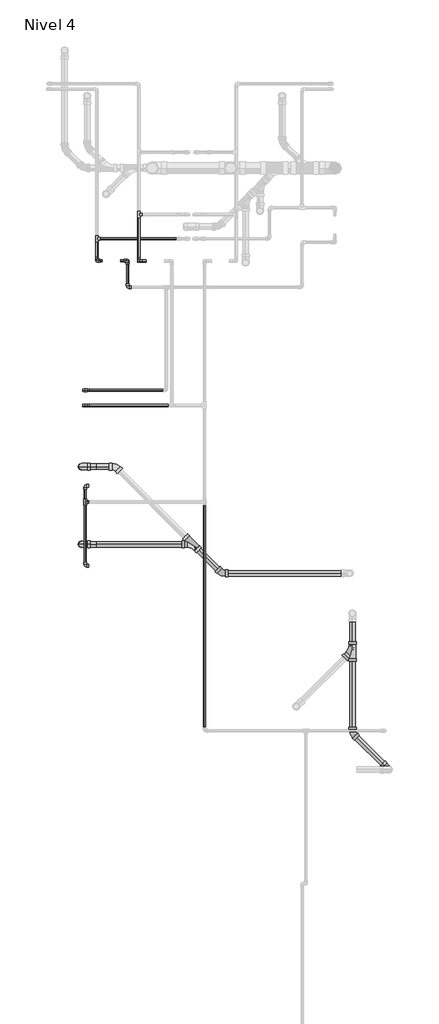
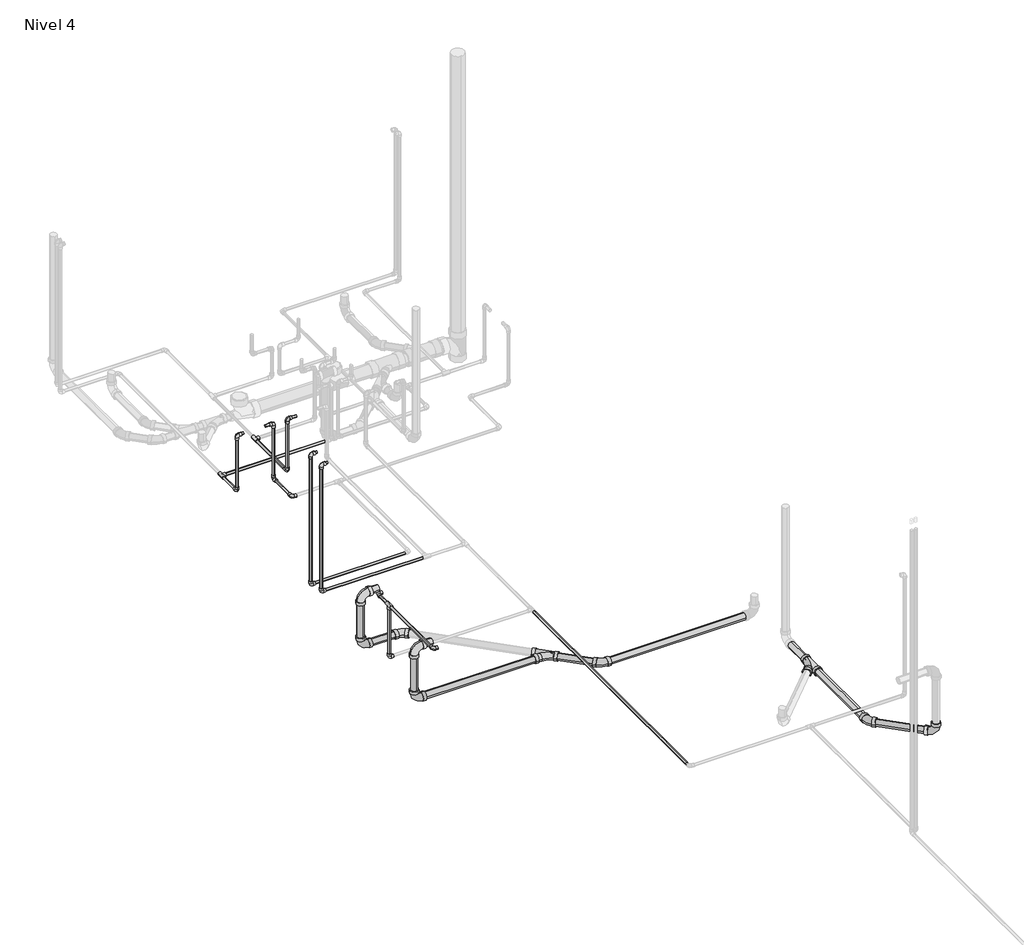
# One storey, part 6 of 9: 31 pipe segments, 27 pipe fittings.
"""IFC4 building model written with IfcOpenShell, lengths in millimetres."""

from ifc_helpers import new_model, si_unit, point, frame, frame_2d, origin, place, context, project, spatial, circle_curve, trimmed, segment, composite_curve, outline, extrude, transform, mapped, element, save
from components import pipe_fitting_ab418b84, pipe_fitting_0163322b, m_codo_pvc_serie_40_9ad74631, m_codo_pvc_serie_40_dwv1_5c0ec739, m_codo_pvc_serie_40_dwv1_6f1a2495

model = new_model("IFC4")

# Units and contexts
model_context = context("Model", 3, world=origin())
ifc_project = project(units=[si_unit("LENGTHUNIT", "METRE", prefix="MILLI")], contexts=[model_context])

# Site, building, storey
site = spatial("IfcSite", under=ifc_project)
building = spatial("IfcBuilding", under=site)
storey = spatial("IfcBuildingStorey", under=building, Name="Nivel 4", Elevation=8100.0)

# Pipe fittings
placement = place(None, origin())
pipe_fitting_shape = pipe_fitting_ab418b84(model_context)
element("IfcPipeFitting", 1, ObjectType="M_Te - PVC - Serie 40 : Estándar", at=placement, inside=storey, context=model_context, shape_type="MappedRepresentation", body=[
    mapped(pipe_fitting_shape, transform((3414.5674476, 13135.047678, 8500.0), x_axis=(0.0, -1.0, 0.0), y_axis=(0.0, 0.0, 1.0), z_axis=(-1.0, 0.0, 0.0))),
])
element("IfcPipeFitting", 2, ObjectType="M_Te - PVC - Serie 40 : Estándar", at=placement, inside=storey, context=model_context, shape_type="MappedRepresentation", body=[
    mapped(pipe_fitting_shape, transform((3940.052369, 15948.3784167, 8050.0), x_axis=(0.0, 1.0, 0.0), y_axis=(-1.0, 0.0, 0.0), z_axis=(0.0, 0.0, 1.0))),
])
element("IfcPipeFitting", 3, ObjectType="M_Te - PVC - Serie 40 : Estándar", at=placement, inside=storey, context=model_context, shape_type="MappedRepresentation", body=[
    mapped(pipe_fitting_shape, transform((3529.5674476, 15711.6215833, 8020.0), x_axis=(0.0, -1.0, 0.0), y_axis=(-1.0, 0.0, 0.0), z_axis=(0.0, 0.0, -1.0))),
])
pipe_fitting_2_shape = pipe_fitting_0163322b(model_context)
element("IfcPipeFitting", 4, ObjectType="M_Sanitario con te de reducción - PVC - Serie 40 - DWV : Estándar", at=placement, inside=storey, context=model_context, shape_type="MappedRepresentation", body=[
    mapped(pipe_fitting_2_shape, transform((6034.2551231, 11685.3518772, 7950.0), x_axis=(0.0, -1.0, 0.0), y_axis=(1.0, 0.0, 0.0), z_axis=(0.0, 0.0, 1.0))),
])
element("IfcPipeFitting", 5, ObjectType="M_Sanitario con te de reducción - PVC - Serie 40 - DWV : Estándar", at=placement, inside=storey, context=model_context, shape_type="MappedRepresentation", body=[
    mapped(pipe_fitting_2_shape, transform((4471.6264357, 12721.1279626, 7950.0), x_axis=(-0.7071067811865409, 0.7071067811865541, 0.0), y_axis=(0.7071067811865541, 0.7071067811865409, 0.0), z_axis=(0.0, 0.0, -1.0))),
])
m_codo_pvc_serie_40_shape = m_codo_pvc_serie_40_9ad74631(model_context)
element("IfcPipeFitting", 6, ObjectType="M_Codo - PVC - Serie 40 : Estándar", at=placement, inside=storey, context=model_context, shape_type="MappedRepresentation", body=[
    mapped(m_codo_pvc_serie_40_shape, transform((3414.5674476, 13135.047678, 8050.0), x_axis=(-1.0, 0.0, 0.0), y_axis=(0.0, 0.0, 1.0), z_axis=(0.0, 1.0, 0.0))),
])
element("IfcPipeFitting", 7, ObjectType="M_Codo - PVC - Serie 40 : Estándar", at=placement, inside=storey, context=model_context, shape_type="MappedRepresentation", body=[
    mapped(m_codo_pvc_serie_40_shape, transform((3414.5674476, 13295.047678, 8500.0), x_axis=(-1.0, 0.0, 0.0), y_axis=(0.0, -1.0, 0.0), z_axis=(0.0, 0.0, 1.0))),
])
element("IfcPipeFitting", 8, ObjectType="M_Codo - PVC - Serie 40 : Estándar", at=placement, inside=storey, context=model_context, shape_type="MappedRepresentation", body=[
    mapped(m_codo_pvc_serie_40_shape, transform((3414.5674476, 12509.5875218, 8500.0), x_axis=(0.0, -1.0, 0.0), y_axis=(1.0, 0.0, 0.0), z_axis=(0.0, 0.0, 1.0))),
])
element("IfcPipeFitting", 9, ObjectType="M_Codo - PVC - Serie 40 : Estándar", at=placement, inside=storey, context=model_context, shape_type="MappedRepresentation", body=[
    mapped(m_codo_pvc_serie_40_shape, transform((3940.052369, 15493.3784167, 8050.0), x_axis=(0.0, -1.0, 0.0), y_axis=(0.0, 0.0, 1.0), z_axis=(-1.0, 0.0, 0.0))),
])
element("IfcPipeFitting", 10, ObjectType="M_Codo - PVC - Serie 40 : Estándar", at=placement, inside=storey, context=model_context, shape_type="MappedRepresentation", body=[
    mapped(m_codo_pvc_serie_40_shape, transform((3940.052369, 15493.3784167, 8500.0), x_axis=(0.0, 0.0, 1.0), y_axis=(1.0, 0.0, 0.0), z_axis=(0.0, 1.0, 0.0))),
])
element("IfcPipeFitting", 11, ObjectType="M_Codo - PVC - Serie 40 : Estándar", at=placement, inside=storey, context=model_context, shape_type="MappedRepresentation", body=[
    mapped(m_codo_pvc_serie_40_shape, transform((3829.5674476, 15236.3878958, 8020.0), x_axis=(0.0, -1.0, 0.0), y_axis=(1.0, 0.0, 0.0), z_axis=(0.0, 0.0, 1.0))),
])
element("IfcPipeFitting", 12, ObjectType="M_Codo - PVC - Serie 40 : Estándar", at=placement, inside=storey, context=model_context, shape_type="MappedRepresentation", body=[
    mapped(m_codo_pvc_serie_40_shape, transform((3829.5674476, 15496.3878958, 8020.0), x_axis=(0.0, 1.0, 0.0), y_axis=(0.0, 0.0, 1.0), z_axis=(1.0, 0.0, 0.0))),
])
element("IfcPipeFitting", 13, ObjectType="M_Codo - PVC - Serie 40 : Estándar", at=placement, inside=storey, context=model_context, shape_type="MappedRepresentation", body=[
    mapped(m_codo_pvc_serie_40_shape, transform((3829.5674476, 15496.3878958, 8500.0), x_axis=(0.0, 0.0, 1.0), y_axis=(-1.0, 0.0, 0.0), z_axis=(0.0, -1.0, 0.0))),
])
element("IfcPipeFitting", 14, ObjectType="M_Codo - PVC - Serie 40 : Estándar", at=placement, inside=storey, context=model_context, shape_type="MappedRepresentation", body=[
    mapped(m_codo_pvc_serie_40_shape, transform((3529.5674476, 15496.3878958, 8500.0), x_axis=(-1.0, 0.0, 0.0), y_axis=(0.0, 0.0, -1.0), z_axis=(0.0, -1.0, 0.0))),
])
element("IfcPipeFitting", 15, ObjectType="M_Codo - PVC - Serie 40 : Estándar", at=placement, inside=storey, context=model_context, shape_type="MappedRepresentation", body=[
    mapped(m_codo_pvc_serie_40_shape, transform((3529.5674476, 15496.3878958, 8020.0), x_axis=(0.0, 0.0, -1.0), y_axis=(0.0, 1.0, 0.0), z_axis=(1.0, 0.0, 0.0))),
])
element("IfcPipeFitting", 16, ObjectType="M_Codo - PVC - Serie 40 : Estándar", at=placement, inside=storey, context=model_context, shape_type="MappedRepresentation", body=[
    mapped(m_codo_pvc_serie_40_shape, transform((3401.6438209, 14229.2433012, 9150.0), x_axis=(-1.0, 0.0, 0.0), y_axis=(0.0, 0.0, -1.0), z_axis=(0.0, -1.0, 0.0))),
])
element("IfcPipeFitting", 17, ObjectType="M_Codo - PVC - Serie 40 : Estándar", at=placement, inside=storey, context=model_context, shape_type="MappedRepresentation", body=[
    mapped(m_codo_pvc_serie_40_shape, transform((3401.6438209, 14079.2433012, 9150.0), x_axis=(-1.0, 0.0, 0.0), y_axis=(0.0, 0.0, -1.0), z_axis=(0.0, -1.0, 0.0))),
])
element("IfcPipeFitting", 18, ObjectType="M_Codo - PVC - Serie 40 : Estándar", at=placement, inside=storey, context=model_context, shape_type="MappedRepresentation", body=[
    mapped(m_codo_pvc_serie_40_shape, transform((3401.6438209, 14229.2433012, 8020.0), x_axis=(0.0, 0.0, -1.0), y_axis=(1.0, 0.0, 0.0), z_axis=(0.0, -1.0, 0.0))),
])
element("IfcPipeFitting", 19, ObjectType="M_Codo - PVC - Serie 40 : Estándar", at=placement, inside=storey, context=model_context, shape_type="MappedRepresentation", body=[
    mapped(m_codo_pvc_serie_40_shape, transform((3401.6438209, 14079.2433012, 8050.0), x_axis=(0.0, 0.0, -1.0), y_axis=(1.0, 0.0, 0.0), z_axis=(0.0, -1.0, 0.0))),
])
m_codo_pvc_serie_40_dwv1_shape = m_codo_pvc_serie_40_dwv1_5c0ec739(model_context)
element("IfcPipeFitting", 20, ObjectType="M_Codo - PVC - Serie 40 - DWV1 : Estándar 2", at=placement, inside=storey, context=model_context, shape_type="MappedRepresentation", body=[
    mapped(m_codo_pvc_serie_40_dwv1_shape, transform((6387.7966771, 10516.9594307, 7950.0), x_axis=(0.0, 0.0, -1.0), y_axis=(-0.7071067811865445, 0.7071067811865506, 0.0), z_axis=(0.7071067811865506, 0.7071067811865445, 0.0))),
])
element("IfcPipeFitting", 21, ObjectType="M_Codo - PVC - Serie 40 - DWV1 : Estándar 2", at=placement, inside=storey, context=model_context, shape_type="MappedRepresentation", body=[
    mapped(m_codo_pvc_serie_40_dwv1_shape, transform((3380.4956461, 13481.1279626, 8400.0), x_axis=(-1.0, 0.0, 0.0), y_axis=(0.0, 0.0, -1.0), z_axis=(0.0, -1.0, 0.0))),
])
element("IfcPipeFitting", 22, ObjectType="M_Codo - PVC - Serie 40 - DWV1 : Estándar 2", at=placement, inside=storey, context=model_context, shape_type="MappedRepresentation", body=[
    mapped(m_codo_pvc_serie_40_dwv1_shape, transform((3380.4956461, 13481.1279626, 7950.0), x_axis=(0.0, 0.0, -1.0), y_axis=(1.0, 0.0, 0.0), z_axis=(0.0, -1.0, 0.0))),
])
element("IfcPipeFitting", 23, ObjectType="M_Codo - PVC - Serie 40 - DWV1 : Estándar 2", at=placement, inside=storey, context=model_context, shape_type="MappedRepresentation", body=[
    mapped(m_codo_pvc_serie_40_dwv1_shape, transform((3380.4956461, 12721.1279626, 8400.0), x_axis=(-1.0, 0.0, 0.0), y_axis=(0.0, 0.0, -1.0), z_axis=(0.0, -1.0, 0.0))),
])
element("IfcPipeFitting", 24, ObjectType="M_Codo - PVC - Serie 40 - DWV1 : Estándar 2", at=placement, inside=storey, context=model_context, shape_type="MappedRepresentation", body=[
    mapped(m_codo_pvc_serie_40_dwv1_shape, transform((3380.4956461, 12721.1279626, 7950.0), x_axis=(0.0, 0.0, -1.0), y_axis=(1.0, 0.0, 0.0), z_axis=(0.0, -1.0, 0.0))),
])
m_codo_pvc_serie_40_dwv1_2_shape = m_codo_pvc_serie_40_dwv1_6f1a2495(model_context)
element("IfcPipeFitting", 25, ObjectType="M_Codo - PVC - Serie 40 - DWV1 : Estándar 2", at=placement, inside=storey, context=model_context, shape_type="MappedRepresentation", body=[
    mapped(m_codo_pvc_serie_40_dwv1_2_shape, transform((6034.2551231, 10870.5009847, 7950.0), x_axis=(0.0, -1.0, 0.0), y_axis=(1.0, 0.0, 0.0), z_axis=(0.0, 0.0, 1.0))),
])
element("IfcPipeFitting", 26, ObjectType="M_Codo - PVC - Serie 40 - DWV1 : Estándar 2", at=placement, inside=storey, context=model_context, shape_type="MappedRepresentation", body=[
    mapped(m_codo_pvc_serie_40_dwv1_2_shape, transform((3711.6264357, 13481.1279626, 7950.0), x_axis=(-0.7071067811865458, 0.7071067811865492, 0.0), y_axis=(-0.7071067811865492, -0.7071067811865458, 0.0), z_axis=(0.0, 0.0, 1.0))),
])
element("IfcPipeFitting", 27, ObjectType="M_Codo - PVC - Serie 40 - DWV1 : Estándar 2", at=placement, inside=storey, context=model_context, shape_type="MappedRepresentation", body=[
    mapped(m_codo_pvc_serie_40_dwv1_2_shape, transform((4755.8120302, 12436.942368, 7950.0), x_axis=(0.7071067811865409, -0.7071067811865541, 0.0), y_axis=(0.7071067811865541, 0.7071067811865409, 0.0), z_axis=(0.0, 0.0, 1.0))),
])

# Pipe segments
element("IfcPipeSegment", 28, ObjectType="Tuberia PVC Agua Fria", at=placement, inside=storey, context=model_context, shape_type="SweptSolid", body=[
    extrude(outline(composite_curve([segment(trimmed(circle_curve(frame_2d((8050.0, 4584.5674476)), 10.31875), [point((8050.0, 4594.8861976))], [point((8060.31875, 4584.5674476))], False, "CARTESIAN"), True, "CONTINUOUS"), segment(trimmed(circle_curve(frame_2d((8050.0, 4584.5674476)), 10.31875), [point((8060.31875, 4584.5674476))], [point((8050.0, 4574.2486976))], False, "CARTESIAN"), True, "CONTINUOUS"), segment(trimmed(circle_curve(frame_2d((8050.0, 4584.5674476)), 10.31875), [point((8050.0, 4574.2486976))], [point((8039.68125, 4584.5674476))], False, "CARTESIAN"), True, "CONTINUOUS"), segment(trimmed(circle_curve(frame_2d((8050.0, 4584.5674476)), 10.31875), [point((8039.68125, 4584.5674476))], [point((8050.0, 4594.8861976))], False, "CARTESIAN"), True, "CONTINUOUS")], self_intersect=False)), frame((0.0, 10930.4191394, 0.0), z_axis=(0.0, 1.0, 0.0), x_axis=(0.0, 0.0, 1.0)), (0.0, 0.0, 1.0), 2174.1683824),
])
element("IfcPipeSegment", 29, ObjectType="Tuberia PVC Agua Fria", at=placement, inside=storey, context=model_context, shape_type="SweptSolid", body=[
    extrude(outline(composite_curve([segment(trimmed(circle_curve(frame_2d((8500.0, 3414.5674476)), 10.31875), [point((8500.0, 3424.8861976))], [point((8510.31875, 3414.5674476))], False, "CARTESIAN"), True, "CONTINUOUS"), segment(trimmed(circle_curve(frame_2d((8500.0, 3414.5674476)), 10.31875), [point((8510.31875, 3414.5674476))], [point((8500.0, 3404.2486976))], False, "CARTESIAN"), True, "CONTINUOUS"), segment(trimmed(circle_curve(frame_2d((8500.0, 3414.5674476)), 10.31875), [point((8500.0, 3404.2486976))], [point((8489.68125, 3414.5674476))], False, "CARTESIAN"), True, "CONTINUOUS"), segment(trimmed(circle_curve(frame_2d((8500.0, 3414.5674476)), 10.31875), [point((8489.68125, 3414.5674476))], [point((8500.0, 3424.8861976))], False, "CARTESIAN"), True, "CONTINUOUS")], self_intersect=False)), frame((0.0, 13165.5078343, 0.0), z_axis=(0.0, 1.0, 0.0), x_axis=(0.0, 0.0, 1.0)), (0.0, 0.0, 1.0), 96.1388438),
])
element("IfcPipeSegment", 30, ObjectType="Tuberia PVC Agua Fria", at=placement, inside=storey, context=model_context, shape_type="SweptSolid", body=[
    extrude(outline(composite_curve([segment(trimmed(circle_curve(frame_2d((3414.5674476, 13135.047678)), 10.31875), [point((3404.2486976, 13135.047678))], [point((3414.5674476, 13145.366428))], False, "CARTESIAN"), True, "CONTINUOUS"), segment(trimmed(circle_curve(frame_2d((3414.5674476, 13135.047678)), 10.31875), [point((3414.5674476, 13145.366428))], [point((3424.8861976, 13135.047678))], False, "CARTESIAN"), True, "CONTINUOUS"), segment(trimmed(circle_curve(frame_2d((3414.5674476, 13135.047678)), 10.31875), [point((3424.8861976, 13135.047678))], [point((3414.5674476, 13124.728928))], False, "CARTESIAN"), True, "CONTINUOUS"), segment(trimmed(circle_curve(frame_2d((3414.5674476, 13135.047678)), 10.31875), [point((3414.5674476, 13124.728928))], [point((3404.2486976, 13135.047678))], False, "CARTESIAN"), True, "CONTINUOUS")], self_intersect=False)), frame((0.0, 0.0, 8083.401), z_axis=(0.0, 0.0, 1.0), x_axis=(1.0, 0.0, 0.0)), (0.0, 0.0, 1.0), 386.1388438),
])
element("IfcPipeSegment", 31, ObjectType="Tuberia PVC Agua Fria", at=placement, inside=storey, context=model_context, shape_type="SweptSolid", body=[
    extrude(outline(composite_curve([segment(trimmed(circle_curve(frame_2d((8500.0, 3414.5674476)), 10.31875), [point((8500.0, 3404.2486976))], [point((8489.68125, 3414.5674476))], False, "CARTESIAN"), True, "CONTINUOUS"), segment(trimmed(circle_curve(frame_2d((8500.0, 3414.5674476)), 10.31875), [point((8489.68125, 3414.5674476))], [point((8500.0, 3424.8861976))], False, "CARTESIAN"), True, "CONTINUOUS"), segment(trimmed(circle_curve(frame_2d((8500.0, 3414.5674476)), 10.31875), [point((8500.0, 3424.8861976))], [point((8510.31875, 3414.5674476))], False, "CARTESIAN"), True, "CONTINUOUS"), segment(trimmed(circle_curve(frame_2d((8500.0, 3414.5674476)), 10.31875), [point((8510.31875, 3414.5674476))], [point((8500.0, 3404.2486976))], False, "CARTESIAN"), True, "CONTINUOUS")], self_intersect=False)), frame((0.0, 12542.9885218, 0.0), z_axis=(0.0, 1.0, 0.0), x_axis=(0.0, 0.0, 1.0)), (0.0, 0.0, 1.0), 561.599),
])
element("IfcPipeSegment", 32, ObjectType="Tuberia PVC Agua Fria", at=placement, inside=storey, context=model_context, shape_type="SweptSolid", body=[
    extrude(outline(composite_curve([segment(trimmed(circle_curve(frame_2d((8050.0, 3940.052369)), 10.31875), [point((8050.0, 3929.733619))], [point((8039.68125, 3940.052369))], False, "CARTESIAN"), True, "CONTINUOUS"), segment(trimmed(circle_curve(frame_2d((8050.0, 3940.052369)), 10.31875), [point((8039.68125, 3940.052369))], [point((8050.0, 3950.371119))], False, "CARTESIAN"), True, "CONTINUOUS"), segment(trimmed(circle_curve(frame_2d((8050.0, 3940.052369)), 10.31875), [point((8050.0, 3950.371119))], [point((8060.31875, 3940.052369))], False, "CARTESIAN"), True, "CONTINUOUS"), segment(trimmed(circle_curve(frame_2d((8050.0, 3940.052369)), 10.31875), [point((8060.31875, 3940.052369))], [point((8050.0, 3929.733619))], False, "CARTESIAN"), True, "CONTINUOUS")], self_intersect=False)), frame((0.0, 15526.7794167, 0.0), z_axis=(0.0, 1.0, 0.0), x_axis=(0.0, 0.0, 1.0)), (0.0, 0.0, 1.0), 391.1388438),
])
element("IfcPipeSegment", 33, ObjectType="Tuberia PVC Agua Fria", at=placement, inside=storey, context=model_context, shape_type="SweptSolid", body=[
    extrude(outline(composite_curve([segment(trimmed(circle_curve(frame_2d((3940.052369, 15493.3784167)), 10.31875), [point((3929.733619, 15493.3784167))], [point((3940.052369, 15503.6971667))], False, "CARTESIAN"), True, "CONTINUOUS"), segment(trimmed(circle_curve(frame_2d((3940.052369, 15493.3784167)), 10.31875), [point((3940.052369, 15503.6971667))], [point((3950.371119, 15493.3784167))], False, "CARTESIAN"), True, "CONTINUOUS"), segment(trimmed(circle_curve(frame_2d((3940.052369, 15493.3784167)), 10.31875), [point((3950.371119, 15493.3784167))], [point((3940.052369, 15483.0596667))], False, "CARTESIAN"), True, "CONTINUOUS"), segment(trimmed(circle_curve(frame_2d((3940.052369, 15493.3784167)), 10.31875), [point((3940.052369, 15483.0596667))], [point((3929.733619, 15493.3784167))], False, "CARTESIAN"), True, "CONTINUOUS")], self_intersect=False)), frame((0.0, 0.0, 8083.401), z_axis=(0.0, 0.0, 1.0), x_axis=(1.0, 0.0, 0.0)), (0.0, 0.0, 1.0), 383.198),
])
element("IfcPipeSegment", 34, ObjectType="Tuberia PVC Agua Fria", at=placement, inside=storey, context=model_context, shape_type="SweptSolid", body=[
    extrude(outline(composite_curve([segment(trimmed(circle_curve(frame_2d((15493.3784167, 8500.0)), 10.31875), [point((15483.0596667, 8500.0))], [point((15493.3784167, 8510.31875))], False, "CARTESIAN"), True, "CONTINUOUS"), segment(trimmed(circle_curve(frame_2d((15493.3784167, 8500.0)), 10.31875), [point((15493.3784167, 8510.31875))], [point((15503.6971667, 8500.0))], False, "CARTESIAN"), True, "CONTINUOUS"), segment(trimmed(circle_curve(frame_2d((15493.3784167, 8500.0)), 10.31875), [point((15503.6971667, 8500.0))], [point((15493.3784167, 8489.68125))], False, "CARTESIAN"), True, "CONTINUOUS"), segment(trimmed(circle_curve(frame_2d((15493.3784167, 8500.0)), 10.31875), [point((15493.3784167, 8489.68125))], [point((15483.0596667, 8500.0))], False, "CARTESIAN"), True, "CONTINUOUS")], self_intersect=False)), frame((3973.453369, 0.0, 0.0), z_axis=(1.0, 0.0, 0.0), x_axis=(0.0, 1.0, 0.0)), (0.0, 0.0, 1.0), 39.3897748),
])
element("IfcPipeSegment", 35, ObjectType="Tuberia PVC Agua Fria", at=placement, inside=storey, context=model_context, shape_type="SweptSolid", body=[
    extrude(outline(composite_curve([segment(trimmed(circle_curve(frame_2d((14079.2433012, 9150.0)), 10.31875), [point((14089.5620512, 9150.0))], [point((14079.2433012, 9139.68125))], False, "CARTESIAN"), True, "CONTINUOUS"), segment(trimmed(circle_curve(frame_2d((14079.2433012, 9150.0)), 10.31875), [point((14079.2433012, 9139.68125))], [point((14068.9245512, 9150.0))], False, "CARTESIAN"), True, "CONTINUOUS"), segment(trimmed(circle_curve(frame_2d((14079.2433012, 9150.0)), 10.31875), [point((14068.9245512, 9150.0))], [point((14079.2433012, 9160.31875))], False, "CARTESIAN"), True, "CONTINUOUS"), segment(trimmed(circle_curve(frame_2d((14079.2433012, 9150.0)), 10.31875), [point((14079.2433012, 9160.31875))], [point((14089.5620512, 9150.0))], False, "CARTESIAN"), True, "CONTINUOUS")], self_intersect=False)), frame((3435.0448209, 0.0, 0.0), z_axis=(1.0, 0.0, 0.0), x_axis=(0.0, 1.0, 0.0)), (0.0, 0.0, 1.0), 16.599),
])
element("IfcPipeSegment", 36, ObjectType="Tuberia PVC Agua Fria", at=placement, inside=storey, context=model_context, shape_type="SweptSolid", body=[
    extrude(outline(composite_curve([segment(trimmed(circle_curve(frame_2d((14079.2433012, 8050.0)), 10.31875), [point((14089.5620512, 8050.0))], [point((14079.2433012, 8039.68125))], False, "CARTESIAN"), True, "CONTINUOUS"), segment(trimmed(circle_curve(frame_2d((14079.2433012, 8050.0)), 10.31875), [point((14079.2433012, 8039.68125))], [point((14068.9245512, 8050.0))], False, "CARTESIAN"), True, "CONTINUOUS"), segment(trimmed(circle_curve(frame_2d((14079.2433012, 8050.0)), 10.31875), [point((14068.9245512, 8050.0))], [point((14079.2433012, 8060.31875))], False, "CARTESIAN"), True, "CONTINUOUS"), segment(trimmed(circle_curve(frame_2d((14079.2433012, 8050.0)), 10.31875), [point((14079.2433012, 8060.31875))], [point((14089.5620512, 8050.0))], False, "CARTESIAN"), True, "CONTINUOUS")], self_intersect=False)), frame((3435.0448209, 0.0, 0.0), z_axis=(1.0, 0.0, 0.0), x_axis=(0.0, 1.0, 0.0)), (0.0, 0.0, 1.0), 798.1289414),
])
element("IfcPipeSegment", 37, ObjectType="Tuberia PVC Agua Fria", at=placement, inside=storey, context=model_context, shape_type="SweptSolid", body=[
    extrude(outline(composite_curve([segment(trimmed(circle_curve(frame_2d((3401.6438209, 14079.2433012)), 10.31875), [point((3411.9625709, 14079.2433012))], [point((3401.6438209, 14068.9245512))], False, "CARTESIAN"), True, "CONTINUOUS"), segment(trimmed(circle_curve(frame_2d((3401.6438209, 14079.2433012)), 10.31875), [point((3401.6438209, 14068.9245512))], [point((3391.3250709, 14079.2433012))], False, "CARTESIAN"), True, "CONTINUOUS"), segment(trimmed(circle_curve(frame_2d((3401.6438209, 14079.2433012)), 10.31875), [point((3391.3250709, 14079.2433012))], [point((3401.6438209, 14089.5620512))], False, "CARTESIAN"), True, "CONTINUOUS"), segment(trimmed(circle_curve(frame_2d((3401.6438209, 14079.2433012)), 10.31875), [point((3401.6438209, 14089.5620512))], [point((3411.9625709, 14079.2433012))], False, "CARTESIAN"), True, "CONTINUOUS")], self_intersect=False)), frame((0.0, 0.0, 8083.401), z_axis=(0.0, 0.0, 1.0), x_axis=(1.0, 0.0, 0.0)), (0.0, 0.0, 1.0), 1033.198),
])
element("IfcPipeSegment", 38, ObjectType="Tuberia PVC Agua Caliente", at=placement, inside=storey, context=model_context, shape_type="SweptSolid", body=[
    extrude(outline(composite_curve([segment(trimmed(circle_curve(frame_2d((8020.0, 3829.5674476)), 10.31875), [point((8020.0, 3839.8861976))], [point((8030.31875, 3829.5674476))], False, "CARTESIAN"), True, "CONTINUOUS"), segment(trimmed(circle_curve(frame_2d((8020.0, 3829.5674476)), 10.31875), [point((8030.31875, 3829.5674476))], [point((8020.0, 3819.2486976))], False, "CARTESIAN"), True, "CONTINUOUS"), segment(trimmed(circle_curve(frame_2d((8020.0, 3829.5674476)), 10.31875), [point((8020.0, 3819.2486976))], [point((8009.68125, 3829.5674476))], False, "CARTESIAN"), True, "CONTINUOUS"), segment(trimmed(circle_curve(frame_2d((8020.0, 3829.5674476)), 10.31875), [point((8009.68125, 3829.5674476))], [point((8020.0, 3839.8861976))], False, "CARTESIAN"), True, "CONTINUOUS")], self_intersect=False)), frame((0.0, 15269.7888958, 0.0), z_axis=(0.0, 1.0, 0.0), x_axis=(0.0, 0.0, 1.0)), (0.0, 0.0, 1.0), 193.198),
])
element("IfcPipeSegment", 39, ObjectType="Tuberia PVC Agua Caliente", at=placement, inside=storey, context=model_context, shape_type="SweptSolid", body=[
    extrude(outline(composite_curve([segment(trimmed(circle_curve(frame_2d((15496.3878958, 8500.0)), 10.31875), [point((15506.7066458, 8500.0))], [point((15496.3878958, 8489.68125))], False, "CARTESIAN"), True, "CONTINUOUS"), segment(trimmed(circle_curve(frame_2d((15496.3878958, 8500.0)), 10.31875), [point((15496.3878958, 8489.68125))], [point((15486.0691458, 8500.0))], False, "CARTESIAN"), True, "CONTINUOUS"), segment(trimmed(circle_curve(frame_2d((15496.3878958, 8500.0)), 10.31875), [point((15486.0691458, 8500.0))], [point((15496.3878958, 8510.31875))], False, "CARTESIAN"), True, "CONTINUOUS"), segment(trimmed(circle_curve(frame_2d((15496.3878958, 8500.0)), 10.31875), [point((15496.3878958, 8510.31875))], [point((15506.7066458, 8500.0))], False, "CARTESIAN"), True, "CONTINUOUS")], self_intersect=False)), frame((3562.9684476, 0.0, 0.0), z_axis=(1.0, 0.0, 0.0), x_axis=(0.0, 1.0, 0.0)), (0.0, 0.0, 1.0), 19.5772433),
])
element("IfcPipeSegment", 40, ObjectType="Tuberia PVC Agua Caliente", at=placement, inside=storey, context=model_context, shape_type="SweptSolid", body=[
    extrude(outline(composite_curve([segment(trimmed(circle_curve(frame_2d((3829.5674476, 15496.3878958)), 10.31875), [point((3819.2486976, 15496.3878958))], [point((3829.5674476, 15506.7066458))], False, "CARTESIAN"), True, "CONTINUOUS"), segment(trimmed(circle_curve(frame_2d((3829.5674476, 15496.3878958)), 10.31875), [point((3829.5674476, 15506.7066458))], [point((3839.8861976, 15496.3878958))], False, "CARTESIAN"), True, "CONTINUOUS"), segment(trimmed(circle_curve(frame_2d((3829.5674476, 15496.3878958)), 10.31875), [point((3839.8861976, 15496.3878958))], [point((3829.5674476, 15486.0691458))], False, "CARTESIAN"), True, "CONTINUOUS"), segment(trimmed(circle_curve(frame_2d((3829.5674476, 15496.3878958)), 10.31875), [point((3829.5674476, 15486.0691458))], [point((3819.2486976, 15496.3878958))], False, "CARTESIAN"), True, "CONTINUOUS")], self_intersect=False)), frame((0.0, 0.0, 8053.401), z_axis=(0.0, 0.0, 1.0), x_axis=(1.0, 0.0, 0.0)), (0.0, 0.0, 1.0), 413.198),
])
element("IfcPipeSegment", 41, ObjectType="Tuberia PVC Agua Caliente", at=placement, inside=storey, context=model_context, shape_type="SweptSolid", body=[
    extrude(outline(composite_curve([segment(trimmed(circle_curve(frame_2d((3529.5674476, 15496.3878958)), 10.31875), [point((3539.8861976, 15496.3878958))], [point((3529.5674476, 15486.0691458))], False, "CARTESIAN"), True, "CONTINUOUS"), segment(trimmed(circle_curve(frame_2d((3529.5674476, 15496.3878958)), 10.31875), [point((3529.5674476, 15486.0691458))], [point((3519.2486976, 15496.3878958))], False, "CARTESIAN"), True, "CONTINUOUS"), segment(trimmed(circle_curve(frame_2d((3529.5674476, 15496.3878958)), 10.31875), [point((3519.2486976, 15496.3878958))], [point((3529.5674476, 15506.7066458))], False, "CARTESIAN"), True, "CONTINUOUS"), segment(trimmed(circle_curve(frame_2d((3529.5674476, 15496.3878958)), 10.31875), [point((3529.5674476, 15506.7066458))], [point((3539.8861976, 15496.3878958))], False, "CARTESIAN"), True, "CONTINUOUS")], self_intersect=False)), frame((0.0, 0.0, 8053.401), z_axis=(0.0, 0.0, 1.0), x_axis=(1.0, 0.0, 0.0)), (0.0, 0.0, 1.0), 413.198),
])
element("IfcPipeSegment", 42, ObjectType="Tuberia PVC Agua Caliente", at=placement, inside=storey, context=model_context, shape_type="SweptSolid", body=[
    extrude(outline(composite_curve([segment(trimmed(circle_curve(frame_2d((15711.6215833, 8020.0)), 10.31875), [point((15721.9403333, 8020.0))], [point((15711.6215833, 8009.68125))], False, "CARTESIAN"), True, "CONTINUOUS"), segment(trimmed(circle_curve(frame_2d((15711.6215833, 8020.0)), 10.31875), [point((15711.6215833, 8009.68125))], [point((15701.3028333, 8020.0))], False, "CARTESIAN"), True, "CONTINUOUS"), segment(trimmed(circle_curve(frame_2d((15711.6215833, 8020.0)), 10.31875), [point((15701.3028333, 8020.0))], [point((15711.6215833, 8030.31875))], False, "CARTESIAN"), True, "CONTINUOUS"), segment(trimmed(circle_curve(frame_2d((15711.6215833, 8020.0)), 10.31875), [point((15711.6215833, 8030.31875))], [point((15721.9403333, 8020.0))], False, "CARTESIAN"), True, "CONTINUOUS")], self_intersect=False)), frame((3560.0276039, 0.0, 0.0), z_axis=(1.0, 0.0, 0.0), x_axis=(0.0, 1.0, 0.0)), (0.0, 0.0, 1.0), 835.3737652),
])
element("IfcPipeSegment", 43, ObjectType="Tuberia PVC Agua Caliente", at=placement, inside=storey, context=model_context, shape_type="SweptSolid", body=[
    extrude(outline(composite_curve([segment(trimmed(circle_curve(frame_2d((8020.0, 3529.5674476)), 10.31875), [point((8020.0, 3539.8861976))], [point((8030.31875, 3529.5674476))], False, "CARTESIAN"), True, "CONTINUOUS"), segment(trimmed(circle_curve(frame_2d((8020.0, 3529.5674476)), 10.31875), [point((8030.31875, 3529.5674476))], [point((8020.0, 3519.2486976))], False, "CARTESIAN"), True, "CONTINUOUS"), segment(trimmed(circle_curve(frame_2d((8020.0, 3529.5674476)), 10.31875), [point((8020.0, 3519.2486976))], [point((8009.68125, 3529.5674476))], False, "CARTESIAN"), True, "CONTINUOUS"), segment(trimmed(circle_curve(frame_2d((8020.0, 3529.5674476)), 10.31875), [point((8009.68125, 3529.5674476))], [point((8020.0, 3539.8861976))], False, "CARTESIAN"), True, "CONTINUOUS")], self_intersect=False)), frame((0.0, 15529.7888958, 0.0), z_axis=(0.0, 1.0, 0.0), x_axis=(0.0, 0.0, 1.0)), (0.0, 0.0, 1.0), 151.3725313),
])
element("IfcPipeSegment", 44, ObjectType="Tuberia PVC Agua Caliente", at=placement, inside=storey, context=model_context, shape_type="SweptSolid", body=[
    extrude(outline(composite_curve([segment(trimmed(circle_curve(frame_2d((15496.3878958, 8500.0)), 10.31875), [point((15506.7066458, 8500.0))], [point((15496.3878958, 8489.68125))], False, "CARTESIAN"), True, "CONTINUOUS"), segment(trimmed(circle_curve(frame_2d((15496.3878958, 8500.0)), 10.31875), [point((15496.3878958, 8489.68125))], [point((15486.0691458, 8500.0))], False, "CARTESIAN"), True, "CONTINUOUS"), segment(trimmed(circle_curve(frame_2d((15496.3878958, 8500.0)), 10.31875), [point((15486.0691458, 8500.0))], [point((15496.3878958, 8510.31875))], False, "CARTESIAN"), True, "CONTINUOUS"), segment(trimmed(circle_curve(frame_2d((15496.3878958, 8500.0)), 10.31875), [point((15496.3878958, 8510.31875))], [point((15506.7066458, 8500.0))], False, "CARTESIAN"), True, "CONTINUOUS")], self_intersect=False)), frame((3760.5456909, 0.0, 0.0), z_axis=(1.0, 0.0, 0.0), x_axis=(0.0, 1.0, 0.0)), (0.0, 0.0, 1.0), 35.6207567),
])
element("IfcPipeSegment", 45, ObjectType="Tuberia PVC Agua Caliente", at=placement, inside=storey, context=model_context, shape_type="SweptSolid", body=[
    extrude(outline(composite_curve([segment(trimmed(circle_curve(frame_2d((14229.2433012, 9150.0)), 10.31875), [point((14239.5620512, 9150.0))], [point((14229.2433012, 9139.68125))], False, "CARTESIAN"), True, "CONTINUOUS"), segment(trimmed(circle_curve(frame_2d((14229.2433012, 9150.0)), 10.31875), [point((14229.2433012, 9139.68125))], [point((14218.9245512, 9150.0))], False, "CARTESIAN"), True, "CONTINUOUS"), segment(trimmed(circle_curve(frame_2d((14229.2433012, 9150.0)), 10.31875), [point((14218.9245512, 9150.0))], [point((14229.2433012, 9160.31875))], False, "CARTESIAN"), True, "CONTINUOUS"), segment(trimmed(circle_curve(frame_2d((14229.2433012, 9150.0)), 10.31875), [point((14229.2433012, 9160.31875))], [point((14239.5620512, 9150.0))], False, "CARTESIAN"), True, "CONTINUOUS")], self_intersect=False)), frame((3435.0448209, 0.0, 0.0), z_axis=(1.0, 0.0, 0.0), x_axis=(0.0, 1.0, 0.0)), (0.0, 0.0, 1.0), 16.599),
])
element("IfcPipeSegment", 46, ObjectType="Tuberia PVC Agua Caliente", at=placement, inside=storey, context=model_context, shape_type="SweptSolid", body=[
    extrude(outline(composite_curve([segment(trimmed(circle_curve(frame_2d((14229.2433012, 8020.0)), 10.31875), [point((14239.5620512, 8020.0))], [point((14229.2433012, 8009.68125))], False, "CARTESIAN"), True, "CONTINUOUS"), segment(trimmed(circle_curve(frame_2d((14229.2433012, 8020.0)), 10.31875), [point((14229.2433012, 8009.68125))], [point((14218.9245512, 8020.0))], False, "CARTESIAN"), True, "CONTINUOUS"), segment(trimmed(circle_curve(frame_2d((14229.2433012, 8020.0)), 10.31875), [point((14218.9245512, 8020.0))], [point((14229.2433012, 8030.31875))], False, "CARTESIAN"), True, "CONTINUOUS"), segment(trimmed(circle_curve(frame_2d((14229.2433012, 8020.0)), 10.31875), [point((14229.2433012, 8030.31875))], [point((14239.5620512, 8020.0))], False, "CARTESIAN"), True, "CONTINUOUS")], self_intersect=False)), frame((3435.0448209, 0.0, 0.0), z_axis=(1.0, 0.0, 0.0), x_axis=(0.0, 1.0, 0.0)), (0.0, 0.0, 1.0), 741.1216267),
])
element("IfcPipeSegment", 47, ObjectType="Tuberia PVC Agua Caliente", at=placement, inside=storey, context=model_context, shape_type="SweptSolid", body=[
    extrude(outline(composite_curve([segment(trimmed(circle_curve(frame_2d((3401.6438209, 14229.2433012)), 10.31875), [point((3411.9625709, 14229.2433012))], [point((3401.6438209, 14218.9245512))], False, "CARTESIAN"), True, "CONTINUOUS"), segment(trimmed(circle_curve(frame_2d((3401.6438209, 14229.2433012)), 10.31875), [point((3401.6438209, 14218.9245512))], [point((3391.3250709, 14229.2433012))], False, "CARTESIAN"), True, "CONTINUOUS"), segment(trimmed(circle_curve(frame_2d((3401.6438209, 14229.2433012)), 10.31875), [point((3391.3250709, 14229.2433012))], [point((3401.6438209, 14239.5620512))], False, "CARTESIAN"), True, "CONTINUOUS"), segment(trimmed(circle_curve(frame_2d((3401.6438209, 14229.2433012)), 10.31875), [point((3401.6438209, 14239.5620512))], [point((3411.9625709, 14229.2433012))], False, "CARTESIAN"), True, "CONTINUOUS")], self_intersect=False)), frame((0.0, 0.0, 8053.401), z_axis=(0.0, 0.0, 1.0), x_axis=(1.0, 0.0, 0.0)), (0.0, 0.0, 1.0), 1063.198),
])
element("IfcPipeSegment", 48, ObjectType="Tuberia PVC Sanitario", at=placement, inside=storey, context=model_context, shape_type="SweptSolid", body=[
    extrude(outline(composite_curve([segment(trimmed(circle_curve(frame_2d((0.0, -26.9875)), 26.9875), [point((-26.9875, -26.9875))], [point((0.0, 0.0))], False, "CARTESIAN"), True, "CONTINUOUS"), segment(trimmed(circle_curve(frame_2d((0.0, -26.9875)), 26.9875), [point((0.0, 0.0))], [point((26.9875001, -26.9875))], False, "CARTESIAN"), True, "CONTINUOUS"), segment(trimmed(circle_curve(frame_2d((0.0, -26.9875)), 26.9875), [point((26.9875001, -26.9875))], [point((0.0, -53.975))], False, "CARTESIAN"), True, "CONTINUOUS"), segment(trimmed(circle_curve(frame_2d((0.0, -26.9875)), 26.9875), [point((0.0, -53.975))], [point((-26.9875, -26.9875))], False, "CARTESIAN"), True, "CONTINUOUS")], self_intersect=False)), frame((6329.430625, 10575.3254828, 7923.0125), z_axis=(-0.7071067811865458, 0.7071067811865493, 0.0), x_axis=(0.7071067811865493, 0.7071067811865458, 0.0)), (0.0, 0.0, 1.0), 357.0130106),
])
element("IfcPipeSegment", 49, ObjectType="Tuberia PVC Sanitario", at=placement, inside=storey, context=model_context, shape_type="SweptSolid", body=[
    extrude(outline(composite_curve([segment(trimmed(circle_curve(frame_2d((7950.0, 6034.2551231)), 26.9875), [point((7950.0, 6061.2426231))], [point((7976.9875, 6034.2551231))], False, "CARTESIAN"), True, "CONTINUOUS"), segment(trimmed(circle_curve(frame_2d((7950.0, 6034.2551231)), 26.9875), [point((7976.9875, 6034.2551231))], [point((7950.0, 6007.2676231))], False, "CARTESIAN"), True, "CONTINUOUS"), segment(trimmed(circle_curve(frame_2d((7950.0, 6034.2551231)), 26.9875), [point((7950.0, 6007.2676231))], [point((7923.0125, 6034.2551231))], False, "CARTESIAN"), True, "CONTINUOUS"), segment(trimmed(circle_curve(frame_2d((7950.0, 6034.2551231)), 26.9875), [point((7923.0125, 6034.2551231))], [point((7950.0, 6061.2426231))], False, "CARTESIAN"), True, "CONTINUOUS")], self_intersect=False)), frame((0.0, 11765.286344, 0.0), z_axis=(0.0, 1.0, 0.0), x_axis=(0.0, 0.0, 1.0)), (0.0, 0.0, 1.0), 196.5136392),
])
element("IfcPipeSegment", 50, ObjectType="Tuberia PVC Sanitario", at=placement, inside=storey, context=model_context, shape_type="SweptSolid", body=[
    extrude(outline(composite_curve([segment(trimmed(circle_curve(frame_2d((7950.0, 6034.2551231)), 26.9875), [point((7950.0, 6061.2426231))], [point((7976.9875, 6034.2551231))], False, "CARTESIAN"), True, "CONTINUOUS"), segment(trimmed(circle_curve(frame_2d((7950.0, 6034.2551231)), 26.9875), [point((7976.9875, 6034.2551231))], [point((7950.0, 6007.2676231))], False, "CARTESIAN"), True, "CONTINUOUS"), segment(trimmed(circle_curve(frame_2d((7950.0, 6034.2551231)), 26.9875), [point((7950.0, 6007.2676231))], [point((7923.0125, 6034.2551231))], False, "CARTESIAN"), True, "CONTINUOUS"), segment(trimmed(circle_curve(frame_2d((7950.0, 6034.2551231)), 26.9875), [point((7923.0125, 6034.2551231))], [point((7950.0, 6061.2426231))], False, "CARTESIAN"), True, "CONTINUOUS")], self_intersect=False)), frame((0.0, 10930.9291722, 0.0), z_axis=(0.0, 1.0, 0.0), x_axis=(0.0, 0.0, 1.0)), (0.0, 0.0, 1.0), 645.5850982),
])
element("IfcPipeSegment", 51, ObjectType="Tuberia PVC Sanitario", at=placement, inside=storey, context=model_context, shape_type="SweptSolid", body=[
    extrude(outline(composite_curve([segment(trimmed(circle_curve(frame_2d((13481.1279626, 8400.0)), 26.9875), [point((13508.1154626, 8400.0))], [point((13481.1279626, 8373.0125))], False, "CARTESIAN"), True, "CONTINUOUS"), segment(trimmed(circle_curve(frame_2d((13481.1279626, 8400.0)), 26.9875), [point((13481.1279626, 8373.0125))], [point((13454.1404626, 8400.0))], False, "CARTESIAN"), True, "CONTINUOUS"), segment(trimmed(circle_curve(frame_2d((13481.1279626, 8400.0)), 26.9875), [point((13454.1404626, 8400.0))], [point((13481.1279626, 8426.9875))], False, "CARTESIAN"), True, "CONTINUOUS"), segment(trimmed(circle_curve(frame_2d((13481.1279626, 8400.0)), 26.9875), [point((13481.1279626, 8426.9875))], [point((13508.1154626, 8400.0))], False, "CARTESIAN"), True, "CONTINUOUS")], self_intersect=False)), frame((3463.0377086, 0.0, 0.0), z_axis=(1.0, 0.0, 0.0), x_axis=(0.0, 1.0, 0.0)), (0.0, 0.0, 1.0), 57.4579375),
])
element("IfcPipeSegment", 52, ObjectType="Tuberia PVC Sanitario", at=placement, inside=storey, context=model_context, shape_type="SweptSolid", body=[
    extrude(outline(composite_curve([segment(trimmed(circle_curve(frame_2d((3380.4956461, 13481.1279626)), 26.9875), [point((3407.4831461, 13481.1279626))], [point((3380.4956461, 13454.1404626))], False, "CARTESIAN"), True, "CONTINUOUS"), segment(trimmed(circle_curve(frame_2d((3380.4956461, 13481.1279626)), 26.9875), [point((3380.4956461, 13454.1404626))], [point((3353.5081461, 13481.1279626))], False, "CARTESIAN"), True, "CONTINUOUS"), segment(trimmed(circle_curve(frame_2d((3380.4956461, 13481.1279626)), 26.9875), [point((3353.5081461, 13481.1279626))], [point((3380.4956461, 13508.1154626))], False, "CARTESIAN"), True, "CONTINUOUS"), segment(trimmed(circle_curve(frame_2d((3380.4956461, 13481.1279626)), 26.9875), [point((3380.4956461, 13508.1154626))], [point((3407.4831461, 13481.1279626))], False, "CARTESIAN"), True, "CONTINUOUS")], self_intersect=False)), frame((0.0, 0.0, 8032.5420625), z_axis=(0.0, 0.0, 1.0), x_axis=(1.0, 0.0, 0.0)), (0.0, 0.0, 1.0), 284.915875),
])
element("IfcPipeSegment", 53, ObjectType="Tuberia PVC Sanitario", at=placement, inside=storey, context=model_context, shape_type="SweptSolid", body=[
    extrude(outline(composite_curve([segment(trimmed(circle_curve(frame_2d((12721.1279626, 8400.0)), 26.9875), [point((12748.1154626, 8400.0))], [point((12721.1279626, 8373.0125))], False, "CARTESIAN"), True, "CONTINUOUS"), segment(trimmed(circle_curve(frame_2d((12721.1279626, 8400.0)), 26.9875), [point((12721.1279626, 8373.0125))], [point((12694.1404626, 8400.0))], False, "CARTESIAN"), True, "CONTINUOUS"), segment(trimmed(circle_curve(frame_2d((12721.1279626, 8400.0)), 26.9875), [point((12694.1404626, 8400.0))], [point((12721.1279626, 8426.9875))], False, "CARTESIAN"), True, "CONTINUOUS"), segment(trimmed(circle_curve(frame_2d((12721.1279626, 8400.0)), 26.9875), [point((12721.1279626, 8426.9875))], [point((12748.1154626, 8400.0))], False, "CARTESIAN"), True, "CONTINUOUS")], self_intersect=False)), frame((3463.0377086, 0.0, 0.0), z_axis=(1.0, 0.0, 0.0), x_axis=(0.0, 1.0, 0.0)), (0.0, 0.0, 1.0), 57.4579375),
])
element("IfcPipeSegment", 54, ObjectType="Tuberia PVC Sanitario", at=placement, inside=storey, context=model_context, shape_type="SweptSolid", body=[
    extrude(outline(composite_curve([segment(trimmed(circle_curve(frame_2d((12721.1279626, 7950.0)), 26.9875), [point((12694.1404626, 7950.0))], [point((12721.1279626, 7976.9875))], False, "CARTESIAN"), True, "CONTINUOUS"), segment(trimmed(circle_curve(frame_2d((12721.1279626, 7950.0)), 26.9875), [point((12721.1279626, 7976.9875))], [point((12748.1154626, 7950.0))], False, "CARTESIAN"), True, "CONTINUOUS"), segment(trimmed(circle_curve(frame_2d((12721.1279626, 7950.0)), 26.9875), [point((12748.1154626, 7950.0))], [point((12721.1279626, 7923.0125))], False, "CARTESIAN"), True, "CONTINUOUS"), segment(trimmed(circle_curve(frame_2d((12721.1279626, 7950.0)), 26.9875), [point((12721.1279626, 7923.0125))], [point((12694.1404626, 7950.0))], False, "CARTESIAN"), True, "CONTINUOUS")], self_intersect=False)), frame((3463.0377086, 0.0, 0.0), z_axis=(1.0, 0.0, 0.0), x_axis=(0.0, 1.0, 0.0)), (0.0, 0.0, 1.0), 899.7511204),
])
element("IfcPipeSegment", 55, ObjectType="Tuberia PVC Sanitario", at=placement, inside=storey, context=model_context, shape_type="SweptSolid", body=[
    extrude(outline(composite_curve([segment(trimmed(circle_curve(frame_2d((3380.4956461, 12721.1279626)), 26.9875), [point((3407.4831461, 12721.1279626))], [point((3380.4956461, 12694.1404626))], False, "CARTESIAN"), True, "CONTINUOUS"), segment(trimmed(circle_curve(frame_2d((3380.4956461, 12721.1279626)), 26.9875), [point((3380.4956461, 12694.1404626))], [point((3353.5081461, 12721.1279626))], False, "CARTESIAN"), True, "CONTINUOUS"), segment(trimmed(circle_curve(frame_2d((3380.4956461, 12721.1279626)), 26.9875), [point((3353.5081461, 12721.1279626))], [point((3380.4956461, 12748.1154626))], False, "CARTESIAN"), True, "CONTINUOUS"), segment(trimmed(circle_curve(frame_2d((3380.4956461, 12721.1279626)), 26.9875), [point((3380.4956461, 12748.1154626))], [point((3407.4831461, 12721.1279626))], False, "CARTESIAN"), True, "CONTINUOUS")], self_intersect=False)), frame((0.0, 0.0, 8032.5420625), z_axis=(0.0, 0.0, 1.0), x_axis=(1.0, 0.0, 0.0)), (0.0, 0.0, 1.0), 284.915875),
])
element("IfcPipeSegment", 56, ObjectType="Tuberia PVC Sanitario", at=placement, inside=storey, context=model_context, shape_type="SweptSolid", body=[
    extrude(outline(composite_curve([segment(trimmed(circle_curve(frame_2d((12436.942368, 7950.0)), 26.9875), [point((12463.929868, 7950.0))], [point((12436.942368, 7923.0125))], False, "CARTESIAN"), True, "CONTINUOUS"), segment(trimmed(circle_curve(frame_2d((12436.942368, 7950.0)), 26.9875), [point((12436.942368, 7923.0125))], [point((12409.954868, 7950.0))], False, "CARTESIAN"), True, "CONTINUOUS"), segment(trimmed(circle_curve(frame_2d((12436.942368, 7950.0)), 26.9875), [point((12409.954868, 7950.0))], [point((12436.942368, 7976.9875))], False, "CARTESIAN"), True, "CONTINUOUS"), segment(trimmed(circle_curve(frame_2d((12436.942368, 7950.0)), 26.9875), [point((12436.942368, 7976.9875))], [point((12463.929868, 7950.0))], False, "CARTESIAN"), True, "CONTINUOUS")], self_intersect=False)), frame((4816.2402177, 0.0, 0.0), z_axis=(1.0, 0.0, 0.0), x_axis=(0.0, 1.0, 0.0)), (0.0, 0.0, 1.0), 1107.02975),
])
element("IfcPipeSegment", 57, ObjectType="Tuberia PVC Sanitario", at=placement, inside=storey, context=model_context, shape_type="SweptSolid", body=[
    extrude(outline(composite_curve([segment(trimmed(circle_curve(frame_2d((13481.1279626, 7950.0)), 26.9875), [point((13454.1404626, 7950.0))], [point((13481.1279626, 7976.9875))], False, "CARTESIAN"), True, "CONTINUOUS"), segment(trimmed(circle_curve(frame_2d((13481.1279626, 7950.0)), 26.9875), [point((13481.1279626, 7976.9875))], [point((13508.1154626, 7950.0))], False, "CARTESIAN"), True, "CONTINUOUS"), segment(trimmed(circle_curve(frame_2d((13481.1279626, 7950.0)), 26.9875), [point((13508.1154626, 7950.0))], [point((13481.1279626, 7923.0125))], False, "CARTESIAN"), True, "CONTINUOUS"), segment(trimmed(circle_curve(frame_2d((13481.1279626, 7950.0)), 26.9875), [point((13481.1279626, 7923.0125))], [point((13454.1404626, 7950.0))], False, "CARTESIAN"), True, "CONTINUOUS")], self_intersect=False)), frame((3463.0377086, 0.0, 0.0), z_axis=(1.0, 0.0, 0.0), x_axis=(0.0, 1.0, 0.0)), (0.0, 0.0, 1.0), 188.1605396),
])
element("IfcPipeSegment", 58, ObjectType="Tuberia PVC Sanitario", at=placement, inside=storey, context=model_context, shape_type="SweptSolid", body=[
    extrude(outline(composite_curve([segment(trimmed(circle_curve(frame_2d((0.0, -26.9875)), 26.9875), [point((-26.9875001, -26.9875))], [point((0.0, 0.0))], False, "CARTESIAN"), True, "CONTINUOUS"), segment(trimmed(circle_curve(frame_2d((0.0, -26.9875)), 26.9875), [point((0.0, 0.0))], [point((26.9875, -26.9875))], False, "CARTESIAN"), True, "CONTINUOUS"), segment(trimmed(circle_curve(frame_2d((0.0, -26.9875)), 26.9875), [point((26.9875, -26.9875))], [point((0.0, -53.975))], False, "CARTESIAN"), True, "CONTINUOUS"), segment(trimmed(circle_curve(frame_2d((0.0, -26.9875)), 26.9875), [point((0.0, -53.975))], [point((-26.9875001, -26.9875))], False, "CARTESIAN"), True, "CONTINUOUS")], self_intersect=False)), frame((4713.0828491, 12479.6715492, 7923.0125), z_axis=(-0.7071067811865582, 0.7071067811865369, 0.0), x_axis=(0.7071067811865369, 0.7071067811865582, 0.0)), (0.0, 0.0, 1.0), 261.5364678),
])

save(model, "model.ifc")
